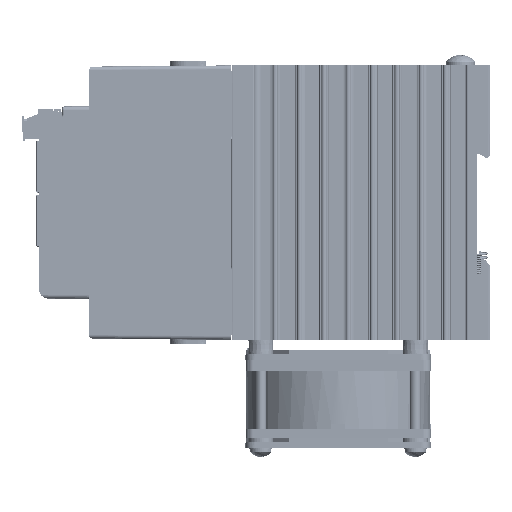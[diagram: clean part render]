
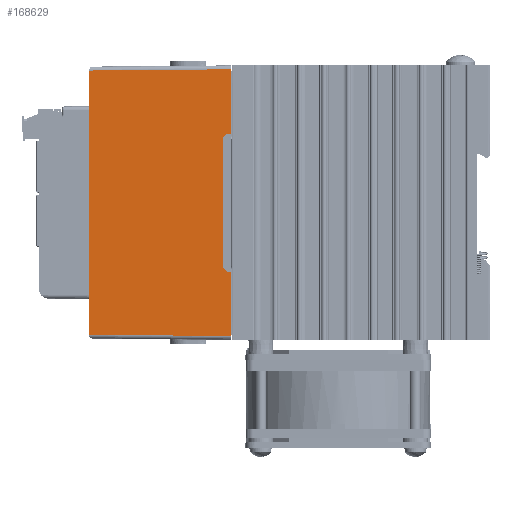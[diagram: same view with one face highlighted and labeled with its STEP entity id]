
A CAD part, left-side view. The second image highlights one B-rep face of the part: STEP entity #168629.
In plain terms, the highlighted planar face has unit normal (-1, 0.009, 0) as drawn and (-1, 0, 0.009) by its records, which use the part's own axes.
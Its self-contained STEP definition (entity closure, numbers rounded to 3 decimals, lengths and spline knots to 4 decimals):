
#17133=FACE_OUTER_BOUND('',#26304,.T.);
#26304=EDGE_LOOP('',(#141975,#141976,#141977,#141978,#141979,#141980,#141981,
#141982,#141983,#141984));
#42355=LINE('',#287445,#61162);
#43150=LINE('',#289415,#61957);
#43153=LINE('',#289420,#61960);
#43155=LINE('',#289425,#61962);
#43161=LINE('',#289436,#61968);
#43165=LINE('',#289444,#61972);
#43173=LINE('',#289464,#61980);
#43174=LINE('',#289466,#61981);
#43175=LINE('',#289468,#61982);
#43176=LINE('',#289469,#61983);
#61162=VECTOR('',#215161,0.3937);
#61957=VECTOR('',#217014,0.3937);
#61960=VECTOR('',#217019,0.3937);
#61962=VECTOR('',#217023,0.3937);
#61968=VECTOR('',#217033,0.3937);
#61972=VECTOR('',#217041,0.3937);
#61980=VECTOR('',#217061,0.3937);
#61981=VECTOR('',#217064,0.3937);
#61982=VECTOR('',#217065,0.3937);
#61983=VECTOR('',#217066,0.3937);
#77625=VERTEX_POINT('',#287442);
#77626=VERTEX_POINT('',#287444);
#78169=VERTEX_POINT('',#289412);
#78170=VERTEX_POINT('',#289414);
#78171=VERTEX_POINT('',#289418);
#78172=VERTEX_POINT('',#289422);
#78173=VERTEX_POINT('',#289424);
#78176=VERTEX_POINT('',#289434);
#78184=VERTEX_POINT('',#289462);
#78185=VERTEX_POINT('',#289467);
#99322=EDGE_CURVE('',#77626,#77625,#42355,.T.);
#100276=EDGE_CURVE('',#78170,#78169,#43150,.T.);
#100279=EDGE_CURVE('',#78169,#78171,#43153,.T.);
#100281=EDGE_CURVE('',#78173,#78172,#43155,.T.);
#100287=EDGE_CURVE('',#78171,#78176,#43161,.T.);
#100291=EDGE_CURVE('',#78176,#78173,#43165,.T.);
#100301=EDGE_CURVE('',#78172,#78184,#43173,.T.);
#100302=EDGE_CURVE('',#77626,#78184,#43174,.T.);
#100303=EDGE_CURVE('',#78185,#77625,#43175,.T.);
#100304=EDGE_CURVE('',#78185,#78170,#43176,.T.);
#141975=ORIENTED_EDGE('',*,*,#100276,.T.);
#141976=ORIENTED_EDGE('',*,*,#100279,.T.);
#141977=ORIENTED_EDGE('',*,*,#100287,.T.);
#141978=ORIENTED_EDGE('',*,*,#100291,.T.);
#141979=ORIENTED_EDGE('',*,*,#100281,.T.);
#141980=ORIENTED_EDGE('',*,*,#100301,.T.);
#141981=ORIENTED_EDGE('',*,*,#100302,.F.);
#141982=ORIENTED_EDGE('',*,*,#99322,.T.);
#141983=ORIENTED_EDGE('',*,*,#100303,.F.);
#141984=ORIENTED_EDGE('',*,*,#100304,.T.);
#160760=PLANE('',#180686);
#168629=ADVANCED_FACE('',(#17133),#160760,.T.);
#180686=AXIS2_PLACEMENT_3D('',#289465,#217062,#217063);
#215161=DIRECTION('',(0.,1.,0.));
#217014=DIRECTION('',(0.009,-0.009,1.));
#217019=DIRECTION('',(0.006,-0.71,0.704));
#217023=DIRECTION('',(-0.009,-0.009,-1.));
#217033=DIRECTION('',(0.,-1.,0.));
#217041=DIRECTION('',(-0.006,-0.71,-0.704));
#217061=DIRECTION('',(0.,-1.,0.));
#217062=DIRECTION('center_axis',(-1.,0.,
0.009));
#217063=DIRECTION('ref_axis',(0.,-1.,0.));
#217064=DIRECTION('',(-0.009,-0.009,-1.));
#217065=DIRECTION('',(0.009,-0.009,1.));
#217066=DIRECTION('',(0.,-1.,0.));
#287442=CARTESIAN_POINT('',(0.0158,3.4342,1.811));
#287444=CARTESIAN_POINT('',(0.0158,0.0658,1.811));
#287445=CARTESIAN_POINT('',(0.0158,3.5,1.811));
#289412=CARTESIAN_POINT('',(0.0005,2.6295,0.0521));
#289414=CARTESIAN_POINT('',(0.,2.63,0.));
#289415=CARTESIAN_POINT('',(0.0001,2.6299,0.0115));
#289418=CARTESIAN_POINT('',(0.0009,2.5762,0.105));
#289420=CARTESIAN_POINT('',(0.0061,1.9795,0.6965));
#289422=CARTESIAN_POINT('',(0.,0.87,0.));
#289424=CARTESIAN_POINT('',(0.0005,0.8705,0.0521));
#289425=CARTESIAN_POINT('',(0.0002,0.8702,0.0223));
#289434=CARTESIAN_POINT('',(0.0009,0.9238,0.105));
#289436=CARTESIAN_POINT('',(0.0009,1.2881,0.105));
#289444=CARTESIAN_POINT('',(-0.0013,0.6646,-0.152));
#289462=CARTESIAN_POINT('',(0.,0.05,0.));
#289464=CARTESIAN_POINT('',(0.,3.5,0.));
#289465=CARTESIAN_POINT('Origin',(0.,0.,0.));
#289466=CARTESIAN_POINT('',(0.0001,0.0501,0.0118));
#289467=CARTESIAN_POINT('',(0.,3.45,0.));
#289468=CARTESIAN_POINT('',(0.0001,3.4499,0.0148));
#289469=CARTESIAN_POINT('',(0.,3.5,0.));
